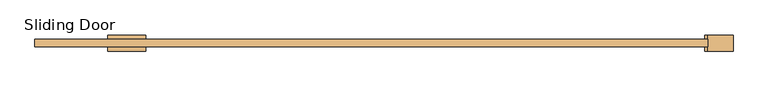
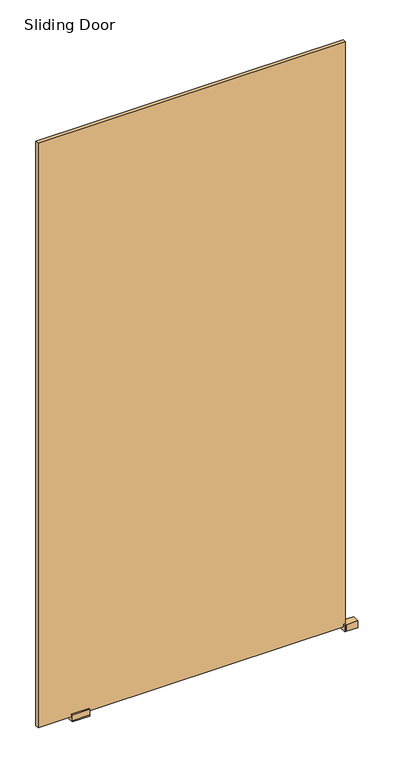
"""IFC4 building model written with IfcOpenShell, lengths in millimetres: door geometry, 2019_EN_Panel_Klein_Nature_Single-Door : Sliding Door."""

from ifc_helpers import new_model, si_unit, frame, origin, origin_with_axes, place, context, project, spatial, polyline, outline, extrude, source, transform, mapped, element, save


def sliding_door_913fe366(model_context):
    return source(origin(), model_context, "Body", "SweptSolid", [
        extrude(outline(polyline([(384.9999999, -5.7), (1444.9999998, -5.7), (1444.9999998, -17.7), (384.9999999, -17.7), (384.9999999, -5.7)])), frame((0.0, 0.0, 15.0), z_axis=(0.0, 0.0, 1.0), x_axis=(1.0, 0.0, 0.0)), (0.0, 0.0, 1.0), 2133.1000015),
        extrude(outline(polyline([(1444.9999998, 0.8), (1484.9999998, 0.8), (1484.9999998, -24.2), (1444.9999998, -24.2), (1444.9999998, 0.8)])), origin_with_axes(), (0.0, 0.0, 1.0), 25.0),
        extrude(outline(polyline([(-5.7, 25.0), (0.8, 25.0), (0.8, 5.0), (-0.2, 5.0), (-0.2, 0.0), (-23.2, 0.0), (-23.2, 5.0), (-24.2, 5.0), (-24.2, 25.0), (-17.7, 25.0), (-17.7, 15.0), (-5.7, 15.0), (-5.7, 25.0)])), frame((499.9999999, 0.0, 0.0), z_axis=(1.0, 0.0, 0.0), x_axis=(0.0, 1.0, 0.0)), (0.0, 0.0, 1.0), 60.0),
        extrude(outline(polyline([(1439.9999998, -24.2), (1439.9999998, 0.8), (1444.9999998, 0.8), (1444.9999998, -24.2), (1439.9999998, -24.2)])), origin_with_axes(), (0.0, 0.0, 1.0), 25.0),
    ])


if __name__ == "__main__":
    model = new_model("IFC4")
    model_context = context("Model", 3, world=origin())
    ifc_project = project(units=[si_unit("LENGTHUNIT", "METRE", prefix="MILLI")], contexts=[model_context])
    site = spatial("IfcSite", under=ifc_project)
    building = spatial("IfcBuilding", under=site)
    placement = place(None, origin())
    sliding_door_shape = sliding_door_913fe366(model_context)
    element("IfcDoor", 1, ObjectType="2019_EN_Panel_Klein_Nature_Single-Door : Sliding Door", at=placement, inside=building, context=model_context, shape_type="MappedRepresentation", body=[
        mapped(sliding_door_shape, transform((0.0, 0.0, 0.0), x_axis=(1.0, 0.0, 0.0), y_axis=(0.0, 1.0, 0.0), z_axis=(0.0, 0.0, 1.0))),
    ])
    save(model, "model.ifc")
